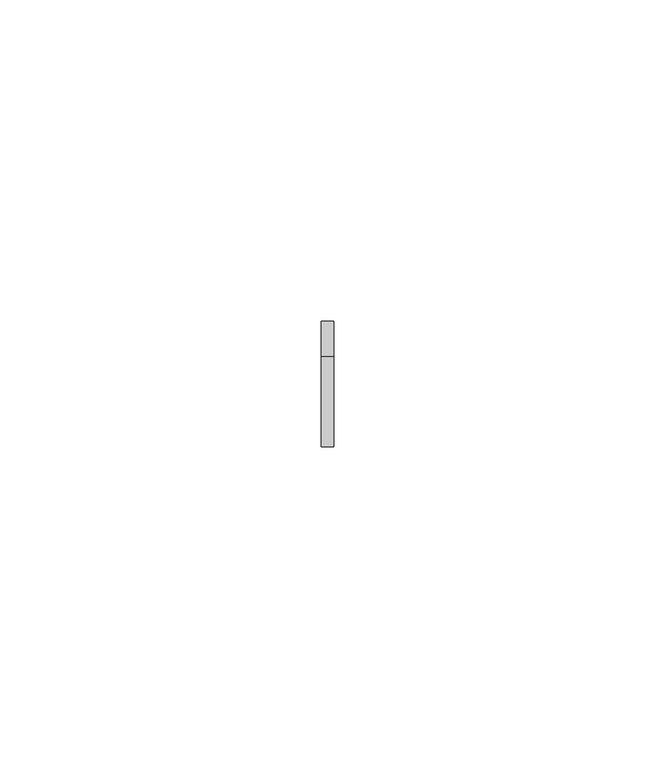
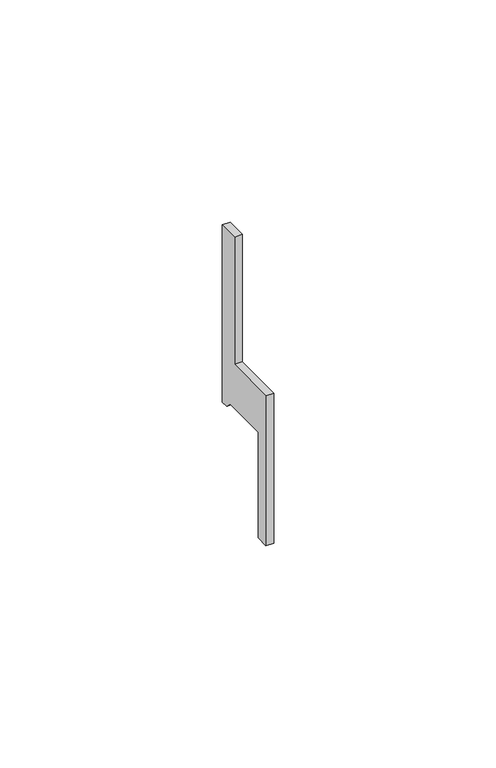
"""IFC4 building model written with IfcOpenShell, lengths in millimetres: proxy geometry, Odbojniki - OPW35 : Odbojniki - OPW35."""

from ifc_helpers import new_model, si_unit, frame, origin, place, context, project, spatial, polyline, outline, extrude, source, transform, mapped, element, save


def generic_models_deb29742(model_context):
    return source(origin(), model_context, "Body", "SweptSolid", [
        extrude(outline(polyline([(-16.5452071, 15.1230145), (-2.4452073, 15.1230145), (-2.4452073, 50.1230145), (3.054793, 50.1230145), (3.054793, 1.4694612), (1.054793, 1.4694612), (-0.4452071, 2.9694613), (-13.0452071, 2.9694613), (-13.0452071, -26.0769855), (-16.5452071, -26.0769855), (-16.5452071, 15.1230145)])), frame((-3.0, 0.0, 0.0), z_axis=(1.0, 0.0, 0.0), x_axis=(0.0, 1.0, 0.0)), (0.0, 0.0, 1.0), 2.0),
    ])


if __name__ == "__main__":
    model = new_model("IFC4")
    model_context = context("Model", 3, world=origin())
    ifc_project = project(units=[si_unit("LENGTHUNIT", "METRE", prefix="MILLI")], contexts=[model_context])
    site = spatial("IfcSite", under=ifc_project)
    building = spatial("IfcBuilding", under=site)
    placement = place(None, origin())
    generic_models_shape = generic_models_deb29742(model_context)
    element("IfcBuildingElementProxy", 1, Name="Odbojniki - OPW35 : Odbojniki - OPW35", ObjectType="Odbojniki - OPW35 : Odbojniki - OPW35", at=placement, inside=building, context=model_context, shape_type="MappedRepresentation", body=[
        mapped(generic_models_shape, transform((0.0, 0.0, 0.0), x_axis=(1.0, 0.0, 0.0), y_axis=(0.0, 1.0, 0.0), z_axis=(0.0, 0.0, 1.0))),
    ])
    save(model, "model.ifc")
